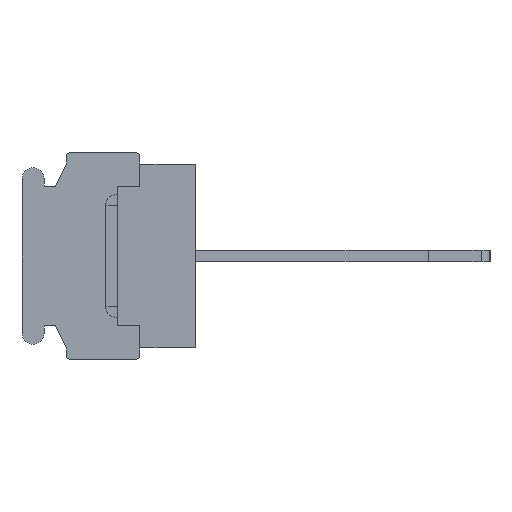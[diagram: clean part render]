
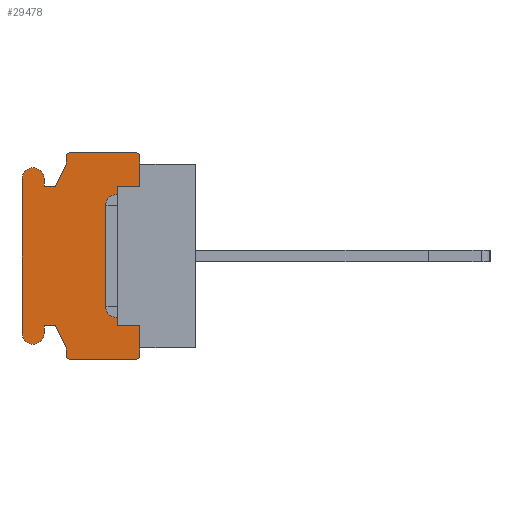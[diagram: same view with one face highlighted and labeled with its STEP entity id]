
A CAD part, left-side view. The second image highlights one B-rep face of the part: STEP entity #29478.
In plain terms, the highlighted planar face has unit normal (-1, 0, 0).
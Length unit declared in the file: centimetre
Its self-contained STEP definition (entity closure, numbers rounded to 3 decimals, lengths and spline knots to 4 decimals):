
#1692=PLANE('',#47955);
#2441=VECTOR('',#30866,1.);
#4568=VECTOR('',#35355,1.);
#4569=VECTOR('',#35356,1.);
#4570=VECTOR('',#35359,1.);
#4571=VECTOR('',#35362,1.);
#4572=VECTOR('',#35363,1.);
#4573=VECTOR('',#35364,1.);
#4574=VECTOR('',#35365,1.);
#4575=VECTOR('',#35368,1.);
#4576=VECTOR('',#35371,1.);
#4577=VECTOR('',#35372,1.);
#4578=VECTOR('',#35373,1.);
#4579=VECTOR('',#35374,1.);
#4580=VECTOR('',#35377,1.);
#4581=VECTOR('',#35380,1.);
#4582=VECTOR('',#35381,1.);
#4583=VECTOR('',#35382,1.);
#4584=VECTOR('',#35383,1.);
#5613=LINE('',#38119,#2441);
#7740=LINE('',#44467,#4568);
#7741=LINE('',#44469,#4569);
#7742=LINE('',#44473,#4570);
#7743=LINE('',#44477,#4571);
#7744=LINE('',#44479,#4572);
#7745=LINE('',#44481,#4573);
#7746=LINE('',#44483,#4574);
#7747=LINE('',#44487,#4575);
#7748=LINE('',#44491,#4576);
#7749=LINE('',#44493,#4577);
#7750=LINE('',#44495,#4578);
#7751=LINE('',#44497,#4579);
#7752=LINE('',#44501,#4580);
#7753=LINE('',#44505,#4581);
#7754=LINE('',#44506,#4582);
#7755=LINE('',#44508,#4583);
#7756=LINE('',#44509,#4584);
#8724=VERTEX_POINT('',#38120);
#8725=VERTEX_POINT('',#38121);
#8834=VERTEX_POINT('',#38421);
#8893=VERTEX_POINT('',#38544);
#10678=VERTEX_POINT('',#44468);
#10679=VERTEX_POINT('',#44470);
#10680=VERTEX_POINT('',#44472);
#10681=VERTEX_POINT('',#44474);
#10682=VERTEX_POINT('',#44476);
#10683=VERTEX_POINT('',#44478);
#10684=VERTEX_POINT('',#44480);
#10685=VERTEX_POINT('',#44482);
#10686=VERTEX_POINT('',#44484);
#10687=VERTEX_POINT('',#44486);
#10688=VERTEX_POINT('',#44488);
#10689=VERTEX_POINT('',#44490);
#10690=VERTEX_POINT('',#44492);
#10691=VERTEX_POINT('',#44494);
#10692=VERTEX_POINT('',#44496);
#10693=VERTEX_POINT('',#44498);
#10694=VERTEX_POINT('',#44500);
#10695=VERTEX_POINT('',#44502);
#10696=VERTEX_POINT('',#44504);
#10697=VERTEX_POINT('',#44507);
#11626=CIRCLE('',#47956,0.02);
#11627=CIRCLE('',#47957,0.02);
#11628=CIRCLE('',#47958,0.075);
#11629=CIRCLE('',#47959,0.075);
#11630=CIRCLE('',#47960,0.02);
#11631=CIRCLE('',#47961,0.02);
#12434=EDGE_CURVE('',#8724,#8725,#5613,.T.);
#15405=EDGE_CURVE('',#10678,#8834,#7740,.T.);
#15406=EDGE_CURVE('',#10679,#8834,#7741,.T.);
#15407=EDGE_CURVE('',#10680,#10679,#11626,.T.);
#15408=EDGE_CURVE('',#10681,#10680,#7742,.T.);
#15409=EDGE_CURVE('',#10682,#10681,#11627,.T.);
#15410=EDGE_CURVE('',#10683,#10682,#7743,.T.);
#15411=EDGE_CURVE('',#10684,#10683,#7744,.T.);
#15412=EDGE_CURVE('',#10685,#10684,#7745,.T.);
#15413=EDGE_CURVE('',#10686,#10685,#7746,.T.);
#15414=EDGE_CURVE('',#10687,#10686,#11628,.T.);
#15415=EDGE_CURVE('',#10688,#10687,#7747,.T.);
#15416=EDGE_CURVE('',#10689,#10688,#11629,.T.);
#15417=EDGE_CURVE('',#10690,#10689,#7748,.T.);
#15418=EDGE_CURVE('',#10691,#10690,#7749,.T.);
#15419=EDGE_CURVE('',#10692,#10691,#7750,.T.);
#15420=EDGE_CURVE('',#10693,#10692,#7751,.T.);
#15421=EDGE_CURVE('',#10694,#10693,#11630,.T.);
#15422=EDGE_CURVE('',#10695,#10694,#7752,.T.);
#15423=EDGE_CURVE('',#10696,#10695,#11631,.T.);
#15424=EDGE_CURVE('',#8893,#10696,#7753,.T.);
#15425=EDGE_CURVE('',#8893,#10697,#7754,.T.);
#15426=EDGE_CURVE('',#10697,#8724,#7755,.T.);
#15427=EDGE_CURVE('',#8725,#10678,#7756,.T.);
#23471=ORIENTED_EDGE('',*,*,#15405,.T.);
#23472=ORIENTED_EDGE('',*,*,#15406,.F.);
#23473=ORIENTED_EDGE('',*,*,#15407,.F.);
#23474=ORIENTED_EDGE('',*,*,#15408,.F.);
#23475=ORIENTED_EDGE('',*,*,#15409,.F.);
#23476=ORIENTED_EDGE('',*,*,#15410,.F.);
#23477=ORIENTED_EDGE('',*,*,#15411,.F.);
#23478=ORIENTED_EDGE('',*,*,#15412,.F.);
#23479=ORIENTED_EDGE('',*,*,#15413,.F.);
#23480=ORIENTED_EDGE('',*,*,#15414,.F.);
#23481=ORIENTED_EDGE('',*,*,#15415,.F.);
#23482=ORIENTED_EDGE('',*,*,#15416,.F.);
#23483=ORIENTED_EDGE('',*,*,#15417,.F.);
#23484=ORIENTED_EDGE('',*,*,#15418,.F.);
#23485=ORIENTED_EDGE('',*,*,#15419,.F.);
#23486=ORIENTED_EDGE('',*,*,#15420,.F.);
#23487=ORIENTED_EDGE('',*,*,#15421,.F.);
#23488=ORIENTED_EDGE('',*,*,#15422,.F.);
#23489=ORIENTED_EDGE('',*,*,#15423,.F.);
#23490=ORIENTED_EDGE('',*,*,#15424,.F.);
#23491=ORIENTED_EDGE('',*,*,#15425,.T.);
#23492=ORIENTED_EDGE('',*,*,#15426,.T.);
#23493=ORIENTED_EDGE('',*,*,#12434,.T.);
#23494=ORIENTED_EDGE('',*,*,#15427,.T.);
#26126=EDGE_LOOP('',(#23471,#23472,#23473,#23474,#23475,#23476,#23477,#23478,
#23479,#23480,#23481,#23482,#23483,#23484,#23485,#23486,#23487,#23488,#23489,
#23490,#23491,#23492,#23493,#23494));
#27856=FACE_BOUND('',#26126,.T.);
#29478=ADVANCED_FACE('',(#27856),#1692,.F.);
#30866=DIRECTION('',(0.,0.,1.));
#35354=DIRECTION('',(1.,0.,0.));
#35355=DIRECTION('',(0.,0.,1.));
#35356=DIRECTION('',(0.,0.,-1.));
#35357=DIRECTION('',(1.,0.,0.));
#35358=DIRECTION('',(0.,0.,-0.02));
#35359=DIRECTION('',(0.,-1.,0.));
#35360=DIRECTION('',(1.,0.,0.));
#35361=DIRECTION('',(0.,0.,-0.02));
#35362=DIRECTION('',(0.,0.,1.));
#35363=DIRECTION('',(0.,-0.447,0.894));
#35364=DIRECTION('',(0.,-1.,0.));
#35365=DIRECTION('',(0.,0.,-1.));
#35366=DIRECTION('',(1.,0.,0.));
#35367=DIRECTION('',(0.,0.,-0.075));
#35368=DIRECTION('',(0.,0.,1.));
#35369=DIRECTION('',(1.,0.,0.));
#35370=DIRECTION('',(0.,0.,-0.075));
#35371=DIRECTION('',(0.,0.,-1.));
#35372=DIRECTION('',(0.,1.,0.));
#35373=DIRECTION('',(0.,0.447,0.894));
#35374=DIRECTION('',(0.,0.,1.));
#35375=DIRECTION('',(1.,0.,0.));
#35376=DIRECTION('',(0.,0.,-0.02));
#35377=DIRECTION('',(0.,1.,0.));
#35378=DIRECTION('',(1.,0.,0.));
#35379=DIRECTION('',(0.,0.,-0.02));
#35380=DIRECTION('',(0.,0.,-1.));
#35381=DIRECTION('',(0.,0.,1.));
#35382=DIRECTION('',(0.,1.,0.));
#35383=DIRECTION('',(0.,-1.,0.));
#38119=CARTESIAN_POINT('',(-0.762,0.53,0.));
#38120=CARTESIAN_POINT('',(-0.762,0.53,-0.475));
#38121=CARTESIAN_POINT('',(-0.762,0.53,0.475));
#38421=CARTESIAN_POINT('',(-0.762,0.38,0.625));
#38544=CARTESIAN_POINT('',(-0.762,0.38,-0.625));
#44466=CARTESIAN_POINT('',(-0.762,0.6059,0.));
#44467=CARTESIAN_POINT('',(-0.762,0.38,0.275));
#44468=CARTESIAN_POINT('',(-0.762,0.38,0.475));
#44469=CARTESIAN_POINT('',(-0.762,0.38,0.68));
#44470=CARTESIAN_POINT('',(-0.762,0.38,0.68));
#44471=CARTESIAN_POINT('',(-0.762,0.4,0.68));
#44472=CARTESIAN_POINT('',(-0.762,0.4,0.7));
#44473=CARTESIAN_POINT('',(-0.762,0.86,0.7));
#44474=CARTESIAN_POINT('',(-0.762,0.86,0.7));
#44475=CARTESIAN_POINT('',(-0.762,0.86,0.68));
#44476=CARTESIAN_POINT('',(-0.762,0.88,0.68));
#44477=CARTESIAN_POINT('',(-0.762,0.88,0.625));
#44478=CARTESIAN_POINT('',(-0.762,0.88,0.625));
#44479=CARTESIAN_POINT('',(-0.762,0.955,0.475));
#44480=CARTESIAN_POINT('',(-0.762,0.955,0.475));
#44481=CARTESIAN_POINT('',(-0.762,1.03,0.475));
#44482=CARTESIAN_POINT('',(-0.762,1.03,0.475));
#44483=CARTESIAN_POINT('',(-0.762,1.03,0.525));
#44484=CARTESIAN_POINT('',(-0.762,1.03,0.525));
#44485=CARTESIAN_POINT('',(-0.762,1.105,0.525));
#44486=CARTESIAN_POINT('',(-0.762,1.18,0.525));
#44487=CARTESIAN_POINT('',(-0.762,1.18,-0.525));
#44488=CARTESIAN_POINT('',(-0.762,1.18,-0.525));
#44489=CARTESIAN_POINT('',(-0.762,1.105,-0.525));
#44490=CARTESIAN_POINT('',(-0.762,1.03,-0.525));
#44491=CARTESIAN_POINT('',(-0.762,1.03,-0.475));
#44492=CARTESIAN_POINT('',(-0.762,1.03,-0.475));
#44493=CARTESIAN_POINT('',(-0.762,0.955,-0.475));
#44494=CARTESIAN_POINT('',(-0.762,0.955,-0.475));
#44495=CARTESIAN_POINT('',(-0.762,0.88,-0.625));
#44496=CARTESIAN_POINT('',(-0.762,0.88,-0.625));
#44497=CARTESIAN_POINT('',(-0.762,0.88,-0.68));
#44498=CARTESIAN_POINT('',(-0.762,0.88,-0.68));
#44499=CARTESIAN_POINT('',(-0.762,0.86,-0.68));
#44500=CARTESIAN_POINT('',(-0.762,0.86,-0.7));
#44501=CARTESIAN_POINT('',(-0.762,0.4,-0.7));
#44502=CARTESIAN_POINT('',(-0.762,0.4,-0.7));
#44503=CARTESIAN_POINT('',(-0.762,0.4,-0.68));
#44504=CARTESIAN_POINT('',(-0.762,0.38,-0.68));
#44505=CARTESIAN_POINT('',(-0.762,0.38,-0.625));
#44506=CARTESIAN_POINT('',(-0.762,0.38,-0.275));
#44507=CARTESIAN_POINT('',(-0.762,0.38,-0.475));
#44508=CARTESIAN_POINT('',(-0.762,0.5304,-0.475));
#44509=CARTESIAN_POINT('',(-0.762,0.5304,0.475));
#47955=AXIS2_PLACEMENT_3D('',#44466,#35354,$);
#47956=AXIS2_PLACEMENT_3D('',#44471,#35357,#35358);
#47957=AXIS2_PLACEMENT_3D('',#44475,#35360,#35361);
#47958=AXIS2_PLACEMENT_3D('',#44485,#35366,#35367);
#47959=AXIS2_PLACEMENT_3D('',#44489,#35369,#35370);
#47960=AXIS2_PLACEMENT_3D('',#44499,#35375,#35376);
#47961=AXIS2_PLACEMENT_3D('',#44503,#35378,#35379);
